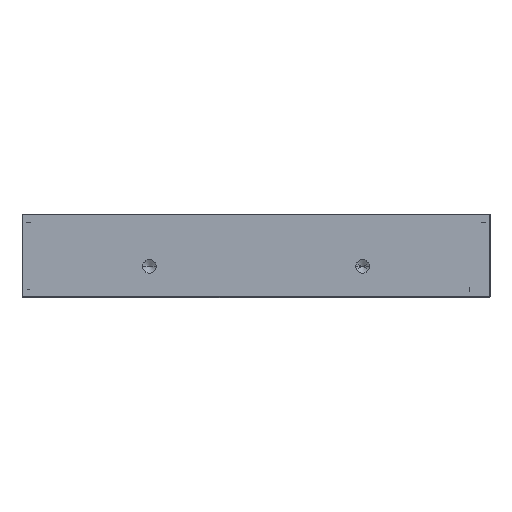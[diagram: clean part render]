
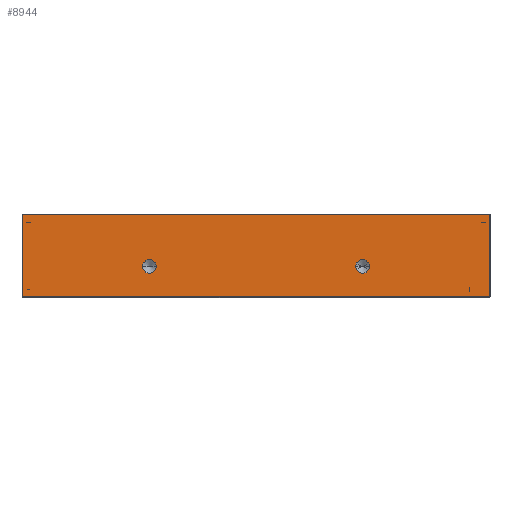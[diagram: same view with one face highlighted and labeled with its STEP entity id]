
A CAD part, front view. The second image highlights one B-rep face of the part: STEP entity #8944.
In plain terms, the highlighted planar face has unit normal (0, -1, 0).
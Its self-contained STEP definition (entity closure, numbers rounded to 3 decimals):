
#3044 = CARTESIAN_POINT ( 'NONE',  ( -65.535, -66.656, 0.924 ) ) ;
#3045 = DIRECTION ( 'NONE',  ( -1., 0., 0. ) ) ;
#3046 = VECTOR ( 'NONE', #3045, 1000. ) ;
#3047 = CARTESIAN_POINT ( 'NONE',  ( 143.465, -66.656, 0.924 ) ) ;
#3048 = LINE ( 'NONE', #3047, #3046 ) ;
#3197 = CARTESIAN_POINT ( 'NONE',  ( 46.465, -66.656, 0.924 ) ) ;
#8810 = EDGE_CURVE ( 'NONE', #20967, #20977, #13915, .T. ) ;
#8821 = EDGE_CURVE ( 'NONE', #20946, #20958, #13975, .T. ) ;
#8870 = EDGE_CURVE ( 'NONE', #8871, #8872, #14153, .T. ) ;
#8871 = VERTEX_POINT ( 'NONE', #14149 ) ;
#8872 = VERTEX_POINT ( 'NONE', #14148 ) ;
#8883 = EDGE_CURVE ( 'NONE', #8872, #9387, #14139, .T. ) ;
#8925 = ORIENTED_EDGE ( 'NONE', *, *, #8926, .T. ) ;
#8926 = EDGE_CURVE ( 'NONE', #21341, #8871, #14388, .T. ) ;
#8927 = ORIENTED_EDGE ( 'NONE', *, *, #8870, .T. ) ;
#8928 = EDGE_LOOP ( 'NONE', ( #8929, #8930 ) ) ;
#8929 = ORIENTED_EDGE ( 'NONE', *, *, #8821, .F. ) ;
#8930 = ORIENTED_EDGE ( 'NONE', *, *, #21022, .F. ) ;
#8931 = EDGE_LOOP ( 'NONE', ( #8932, #8933 ) ) ;
#8932 = ORIENTED_EDGE ( 'NONE', *, *, #8810, .F. ) ;
#8933 = ORIENTED_EDGE ( 'NONE', *, *, #20962, .F. ) ;
#8944 = ADVANCED_FACE ( 'NONE', ( #14537, #14535, #14534 ), #14505, .T. ) ;
#8945 = EDGE_LOOP ( 'NONE', ( #8946, #8947, #8948, #8925, #8927 ) ) ;
#8946 = ORIENTED_EDGE ( 'NONE', *, *, #8883, .T. ) ;
#8947 = ORIENTED_EDGE ( 'NONE', *, *, #9390, .F. ) ;
#8948 = ORIENTED_EDGE ( 'NONE', *, *, #21340, .T. ) ;
#9387 = VERTEX_POINT ( 'NONE', #16292 ) ;
#9390 = EDGE_CURVE ( 'NONE', #21384, #9387, #16287, .T. ) ;
#13911 = DIRECTION ( 'NONE',  ( -1., 0., 0. ) ) ;
#13912 = DIRECTION ( 'NONE',  ( 0., -1., 0. ) ) ;
#13913 = CARTESIAN_POINT ( 'NONE',  ( 15.965, -66.656, -11.576 ) ) ;
#13914 = AXIS2_PLACEMENT_3D ( 'NONE', #13913, #13912, #13911 ) ;
#13915 = CIRCLE ( 'NONE', #13914, 1.65 ) ;
#13971 = DIRECTION ( 'NONE',  ( -1., 0., 0. ) ) ;
#13972 = DIRECTION ( 'NONE',  ( 0., -1., 0. ) ) ;
#13973 = CARTESIAN_POINT ( 'NONE',  ( -35.035, -66.656, -11.576 ) ) ;
#13974 = AXIS2_PLACEMENT_3D ( 'NONE', #13973, #13972, #13971 ) ;
#13975 = CIRCLE ( 'NONE', #13974, 1.65 ) ;
#14135 = DIRECTION ( 'NONE',  ( 1., 0., 0. ) ) ;
#14136 = VECTOR ( 'NONE', #14135, 1000. ) ;
#14137 = CARTESIAN_POINT ( 'NONE',  ( 143.465, -66.656, -18.876 ) ) ;
#14139 = LINE ( 'NONE', #14137, #14136 ) ;
#14148 = CARTESIAN_POINT ( 'NONE',  ( -60.535, -66.656, -18.876 ) ) ;
#14149 = CARTESIAN_POINT ( 'NONE',  ( -65.535, -66.656, -18.876 ) ) ;
#14150 = DIRECTION ( 'NONE',  ( 1., 0., 0. ) ) ;
#14151 = VECTOR ( 'NONE', #14150, 1000. ) ;
#14152 = CARTESIAN_POINT ( 'NONE',  ( 143.465, -66.656, -18.876 ) ) ;
#14153 = LINE ( 'NONE', #14152, #14151 ) ;
#14387 = CARTESIAN_POINT ( 'NONE',  ( -65.535, -66.656, 7.995 ) ) ;
#14388 = LINE ( 'NONE', #14387, #14492 ) ;
#14491 = DIRECTION ( 'NONE',  ( 0., 0., -1. ) ) ;
#14492 = VECTOR ( 'NONE', #14491, 1000. ) ;
#14494 = DIRECTION ( 'NONE',  ( -1., 0., 0. ) ) ;
#14496 = DIRECTION ( 'NONE',  ( 0., -1., 0. ) ) ;
#14498 = CARTESIAN_POINT ( 'NONE',  ( 143.465, -66.656, 0.924 ) ) ;
#14499 = AXIS2_PLACEMENT_3D ( 'NONE', #14498, #14496, #14494 ) ;
#14505 = PLANE ( 'NONE',  #14499 ) ;
#14534 = FACE_BOUND ( 'NONE', #8931, .T. ) ;
#14535 = FACE_BOUND ( 'NONE', #8928, .T. ) ;
#14537 = FACE_OUTER_BOUND ( 'NONE', #8945, .T. ) ;
#16284 = DIRECTION ( 'NONE',  ( 0., 0., -1. ) ) ;
#16285 = VECTOR ( 'NONE', #16284, 1000. ) ;
#16286 = CARTESIAN_POINT ( 'NONE',  ( 46.465, -66.656, 7.995 ) ) ;
#16287 = LINE ( 'NONE', #16286, #16285 ) ;
#16292 = CARTESIAN_POINT ( 'NONE',  ( 46.465, -66.656, -18.876 ) ) ;
#20946 = VERTEX_POINT ( 'NONE', #40026 ) ;
#20958 = VERTEX_POINT ( 'NONE', #40036 ) ;
#20962 = EDGE_CURVE ( 'NONE', #20977, #20967, #40076, .T. ) ;
#20967 = VERTEX_POINT ( 'NONE', #40116 ) ;
#20977 = VERTEX_POINT ( 'NONE', #40140 ) ;
#21022 = EDGE_CURVE ( 'NONE', #20958, #20946, #40271, .T. ) ;
#21340 = EDGE_CURVE ( 'NONE', #21384, #21341, #3048, .T. ) ;
#21341 = VERTEX_POINT ( 'NONE', #3044 ) ;
#21384 = VERTEX_POINT ( 'NONE', #3197 ) ;
#40026 = CARTESIAN_POINT ( 'NONE',  ( -36.685, -66.656, -11.576 ) ) ;
#40036 = CARTESIAN_POINT ( 'NONE',  ( -33.385, -66.656, -11.576 ) ) ;
#40072 = DIRECTION ( 'NONE',  ( -1., 0., 0. ) ) ;
#40073 = DIRECTION ( 'NONE',  ( 0., -1., 0. ) ) ;
#40074 = CARTESIAN_POINT ( 'NONE',  ( 15.965, -66.656, -11.576 ) ) ;
#40075 = AXIS2_PLACEMENT_3D ( 'NONE', #40074, #40073, #40072 ) ;
#40076 = CIRCLE ( 'NONE', #40075, 1.65 ) ;
#40116 = CARTESIAN_POINT ( 'NONE',  ( 14.315, -66.656, -11.576 ) ) ;
#40140 = CARTESIAN_POINT ( 'NONE',  ( 17.615, -66.656, -11.576 ) ) ;
#40267 = DIRECTION ( 'NONE',  ( -1., 0., 0. ) ) ;
#40268 = DIRECTION ( 'NONE',  ( 0., -1., 0. ) ) ;
#40269 = CARTESIAN_POINT ( 'NONE',  ( -35.035, -66.656, -11.576 ) ) ;
#40270 = AXIS2_PLACEMENT_3D ( 'NONE', #40269, #40268, #40267 ) ;
#40271 = CIRCLE ( 'NONE', #40270, 1.65 ) ;
